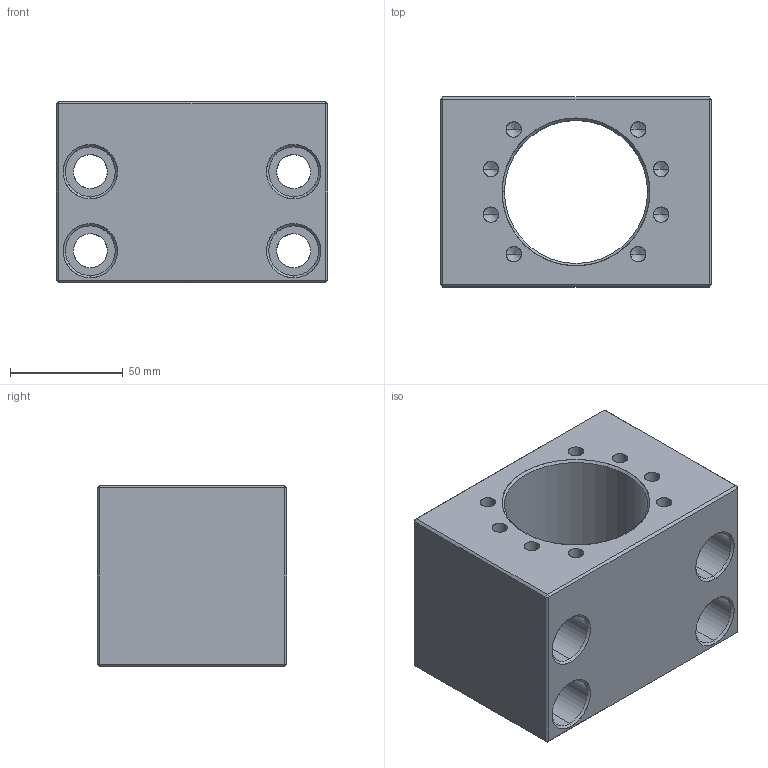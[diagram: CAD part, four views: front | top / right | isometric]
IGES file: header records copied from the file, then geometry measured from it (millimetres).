
Start section: SolidWorks IGES file using analytic representation for surfaces
Bounding box: 120 x 84 x 80 mm (x, y, z)
Surface area: 81388 mm2 (no closed solid volume)
Topology: 0 solids, 0 shells, 108 faces, 1304 edges, 1288 vertices
Faces by surface type: revolution 78, bspline 30
